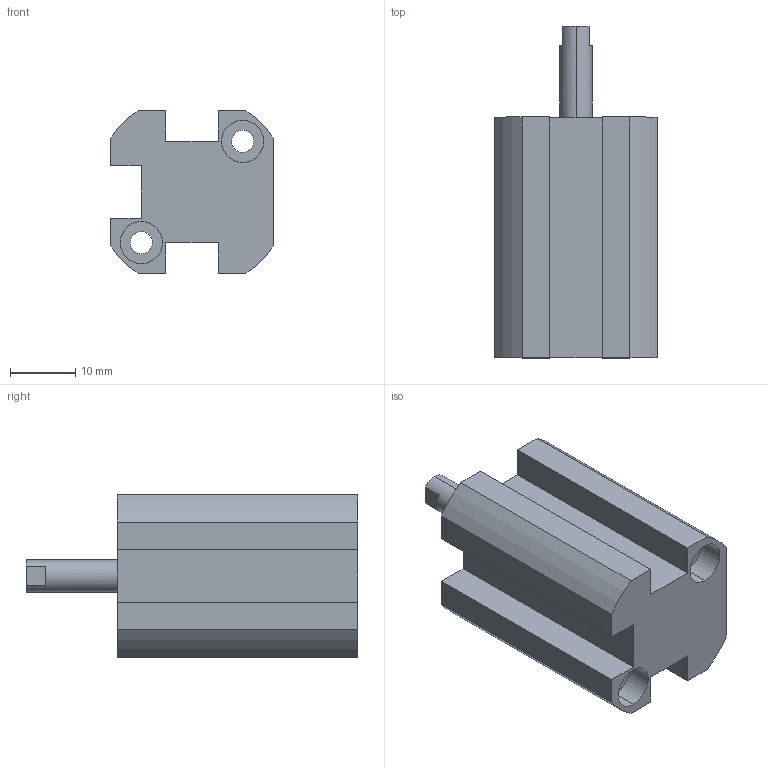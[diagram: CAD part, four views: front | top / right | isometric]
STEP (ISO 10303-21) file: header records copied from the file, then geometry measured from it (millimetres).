
FILE_DESCRIPTION (( 'STEP AP203' ), '1' );
FILE_NAME ('XG#0-10-10.STEP', '2016-05-24T01:29:01', ( '' ), ( '' ), 'SwSTEP 2.0', 'SolidWorks 2014', '' );
FILE_SCHEMA (( 'CONFIG_CONTROL_DESIGN' ));
Length unit declared in the file: millimetre
Products named in the file (1): XG#0-10-10
Bounding box: 25 x 51 x 25 mm (x, y, z)
Volume: 16640.8 mm3; surface area: 6828.3 mm2
Topology: 1 solids, 1 shells, 72 faces, 177 edges, 116 vertices
Faces by surface type: cylinder 37, plane 33, cone 2
Entity records: 2227 total; most frequent: DIRECTION 400, CARTESIAN_POINT 364, ORIENTED_EDGE 350, EDGE_CURVE 175, AXIS2_PLACEMENT_3D 152, VERTEX_POINT 116, LINE 96, VECTOR 96
